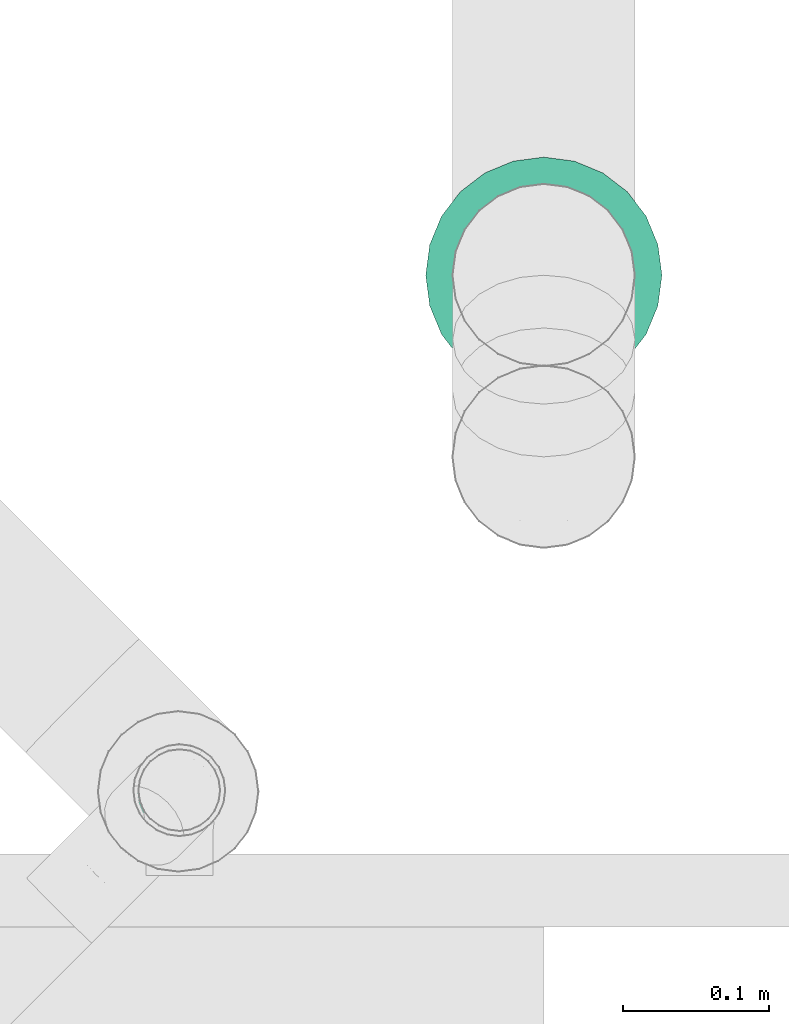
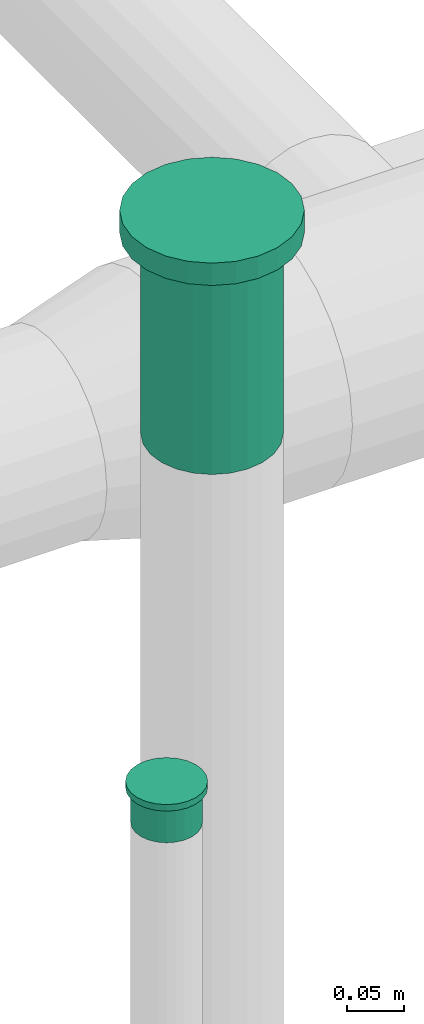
# One storey, part 141 of 374: 2 flow fittings.
"""IFC2X3 building model written with IfcOpenShell, lengths in metres."""

import ifcopenshell
import ifcopenshell.guid

model = None  # the IFC model being written
_history = None  # IfcOwnerHistory: only IFC2X3 demands one
_inside = {}  # id of a spatial element -> (the spatial element, [elements in it])
_under = {}  # id of a project, library or spatial element -> (it, [spatial elements below it])
_declared = {}  # id of a project -> (the project, [libraries it declares])
_typed = {}  # id of a type object -> (the type object, [elements of that type])
_made_of = {}  # id of a material, layer set ... -> (it, [elements and type objects made of it])


def new_model(schema):
    """Start an empty IFC model of exactly this schema.

    Asked for "IFC4X3", IfcOpenShell would pick the latest addendum, in which some entities
    have other attributes; the version numbers below select the first issue.
    IFC2X3 requires an IfcOwnerHistory on every rooted entity: one is made here for all.
    """
    global model, _history
    if schema == "IFC4X3":
        model = ifcopenshell.file(schema_version=(4, 3, 0, 0))
    else:
        model = ifcopenshell.file(schema=schema)
    _inside.clear()
    _under.clear()
    _declared.clear()
    _typed.clear()
    _made_of.clear()
    _history = None
    if model.schema == "IFC2X3":
        org = make("IfcOrganization", Name="unknown")
        user = make(
            "IfcPersonAndOrganization",
            ThePerson=make("IfcPerson", FamilyName="unknown"),
            TheOrganization=org,
        )
        app = make(
            "IfcApplication",
            ApplicationDeveloper=org,
            Version="unknown",
            ApplicationFullName="unknown",
            ApplicationIdentifier="unknown",
        )
        _history = make(
            "IfcOwnerHistory",
            OwningUser=user,
            OwningApplication=app,
            ChangeAction="ADDED",
            CreationDate=0,
        )
    return model


def make(cls, **values):
    """One entity of the class cls with the attributes given. An attribute that is None is left unset."""
    return model.create_entity(
        cls, **{name: value for name, value in values.items() if value is not None}
    )


def rooted(cls, **values):
    """An entity with a GlobalId (a new one), such as an element, a storey or a relation."""
    return make(cls, GlobalId=ifcopenshell.guid.new(), OwnerHistory=_history, **values)


def si_unit(unit_type, name, prefix=None):
    """IfcSIUnit, for example si_unit("LENGTHUNIT", "METRE", prefix="MILLI")."""
    return make("IfcSIUnit", UnitType=unit_type, Prefix=prefix, Name=name)


def assignment(units):
    """IfcUnitAssignment: the units of a project."""
    return None if units is None else make("IfcUnitAssignment", Units=units)


def point(xyz):
    """IfcCartesianPoint."""
    return None if xyz is None else make("IfcCartesianPoint", Coordinates=xyz)


def direction(xyz):
    """IfcDirection."""
    return None if xyz is None else make("IfcDirection", DirectionRatios=xyz)


def frame(location, z_axis=None, x_axis=None):
    """IfcAxis2Placement3D, a coordinate frame: its origin and axes. An axis left out is left unset."""
    return make(
        "IfcAxis2Placement3D",
        Location=point(location),
        Axis=direction(z_axis),
        RefDirection=direction(x_axis),
    )


def origin():
    """The frame at (0, 0, 0) with its axes left unset."""
    return frame((0.0, 0.0, 0.0))


def place(relative_to, where):
    """IfcLocalPlacement: puts the frame where relative to a parent placement (None: the world)."""
    return make(
        "IfcLocalPlacement", PlacementRelTo=relative_to, RelativePlacement=where
    )


def context(
    kind, dimensions, precision=None, world=None, true_north=None, identifier=None
):
    """IfcGeometricRepresentationContext, for example the 3D "Model" context."""
    return make(
        "IfcGeometricRepresentationContext",
        ContextIdentifier=identifier,
        ContextType=kind,
        CoordinateSpaceDimension=dimensions,
        Precision=precision,
        WorldCoordinateSystem=world,
        TrueNorth=true_north,
    )


def subcontext(parent, identifier, kind, view, scale=None):
    """IfcGeometricRepresentationSubContext, for example "Body" below "Model"."""
    return make(
        "IfcGeometricRepresentationSubContext",
        ContextIdentifier=identifier,
        ContextType=kind,
        ParentContext=parent,
        TargetScale=scale,
        TargetView=view,
    )


def project(units=None, contexts=None):
    """IfcProject with its units and contexts."""
    return rooted(
        "IfcProject",
        Name="project",
        RepresentationContexts=contexts,
        UnitsInContext=assignment(units),
    )


def spatial(cls, under=None, at=None, **own):
    """A site, building, storey or space (cls), placed at a placement, below another one or the project."""
    s = rooted(cls, ObjectPlacement=at, **own)
    if under is not None:
        _under.setdefault(under.id(), (under, []))[1].append(s)
    return s


def faces_of(points, faces, orient=None, outer=None):
    """IfcFace entities. A face is a list of loops; a loop is a list of indices into points, from 0.

    orient and outer hold one flag for each loop. By default every Orientation is true, the
    first loop of a face is its IfcFaceOuterBound and the others are IfcFaceBound.
    """
    made = []
    for i, loops in enumerate(faces):
        bounds = []
        for j, loop in enumerate(loops):
            is_outer = j == 0 if outer is None else outer[i][j]
            bounds.append(
                make(
                    "IfcFaceOuterBound" if is_outer else "IfcFaceBound",
                    Bound=make("IfcPolyLoop", Polygon=[points[k] for k in loop]),
                    Orientation=True if orient is None else orient[i][j],
                )
            )
        made.append(make("IfcFace", Bounds=bounds))
    return made


def open_shell(faces, orient=None, outer=None):
    """The faces of one IfcOpenShell. surface_model builds it on its shared points."""
    return ("IfcOpenShell", faces, orient, outer)


def surface_model(cls, points, shells):
    """IfcFaceBasedSurfaceModel or IfcShellBasedSurfaceModel (cls): surfaces that need not close."""
    shared = [point(p) for p in points]
    made = [make(c, CfsFaces=faces_of(shared, fs, o, b)) for c, fs, o, b in shells]
    if cls == "IfcFaceBasedSurfaceModel":
        return make(cls, FbsmFaces=made)
    return make(cls, SbsmBoundary=made)


def shape(context_of_items, identifier, shape_type, items):
    """IfcShapeRepresentation: the items that make up one representation, for example the "Body"."""
    return make(
        "IfcShapeRepresentation",
        ContextOfItems=context_of_items,
        RepresentationIdentifier=identifier,
        RepresentationType=shape_type,
        Items=items,
    )


def source(mapping_origin, context_of_items, identifier, shape_type, items):
    """IfcRepresentationMap: a shape defined once, which mapped items show again and again."""
    return make(
        "IfcRepresentationMap",
        MappingOrigin=mapping_origin,
        MappedRepresentation=shape(context_of_items, identifier, shape_type, items),
    )


def transform(
    local_origin,
    x_axis=None,
    y_axis=None,
    z_axis=None,
    scale=None,
    scale2=None,
    scale3=None,
    uniform=True,
):
    """IfcCartesianTransformationOperator3D, or its non-uniform kind. x_axis, y_axis, z_axis: its Axis1, 2, 3."""
    if uniform:
        return make(
            "IfcCartesianTransformationOperator3D",
            Axis1=direction(x_axis),
            Axis2=direction(y_axis),
            LocalOrigin=point(local_origin),
            Scale=scale,
            Axis3=direction(z_axis),
        )
    return make(
        "IfcCartesianTransformationOperator3DnonUniform",
        Axis1=direction(x_axis),
        Axis2=direction(y_axis),
        LocalOrigin=point(local_origin),
        Scale=scale,
        Axis3=direction(z_axis),
        Scale2=scale2,
        Scale3=scale3,
    )


def mapped(mapping_source, mapping_target):
    """IfcMappedItem: shows the shape of a source again, moved by a transform."""
    return make(
        "IfcMappedItem", MappingSource=mapping_source, MappingTarget=mapping_target
    )


def made_of(thing, what):
    """Note that an element or type object is made of a material, layer set ...; save() writes the relation."""
    if what is not None:
        _made_of.setdefault(what.id(), (what, []))[1].append(thing)
    return thing


def element(
    cls,
    number,
    at=None,
    inside=None,
    cuts=None,
    type_object=None,
    material=None,
    context=None,
    identifier="Body",
    shape_type=None,
    held_by="IfcProductDefinitionShape",
    body=None,
    shapes=None,
    **own,
):
    """One element of the class cls, such as IfcWall. Its Tag is "e" and its number.

    at: its placement. inside: the storey or other place that contains it. cuts: it is an
    opening in that element (IfcRelVoidsElement). A single representation is given by context,
    identifier, shape_type and body (its items); several are given by shapes. held_by: the class
    of the entity that holds the representations. save() writes the other relations.
    """
    e = rooted(cls, Tag="e%d" % number, ObjectPlacement=at, **own)
    if body is not None:
        shapes = [shape(context, identifier, shape_type, body)]
    if shapes is not None:
        e.Representation = make(held_by, Representations=shapes)
    if inside is not None:
        _inside.setdefault(inside.id(), (inside, []))[1].append(e)
    if cuts is not None:
        rooted(
            "IfcRelVoidsElement", RelatingBuildingElement=cuts, RelatedOpeningElement=e
        )
    if type_object is not None:
        _typed.setdefault(type_object.id(), (type_object, []))[1].append(e)
    return made_of(e, material)


def aggregate(whole, parts):
    """IfcRelAggregates: a whole, such as a stair, and the parts it consists of."""
    return rooted("IfcRelAggregates", RelatingObject=whole, RelatedObjects=parts)


def save(model, path):
    """Write the relations noted so far, then the file.

    IfcRelAggregates (storeys below a building ...), IfcRelContainedInSpatialStructure (elements
    in a storey), IfcRelDefinesByType, IfcRelAssociatesMaterial and IfcRelDeclares: one each for
    every whole, place, type object, material and project.
    """
    for whole, parts in _under.values():
        aggregate(whole, parts)
    for where, things in _inside.values():
        rooted(
            "IfcRelContainedInSpatialStructure",
            RelatedElements=things,
            RelatingStructure=where,
        )
    for kind, things in _typed.values():
        rooted("IfcRelDefinesByType", RelatedObjects=things, RelatingType=kind)
    for what, things in _made_of.values():
        rooted("IfcRelAssociatesMaterial", RelatedObjects=things, RelatingMaterial=what)
    for by, libraries in _declared.values():
        rooted("IfcRelDeclares", RelatingContext=by, RelatedDefinitions=libraries)
    model.write(path)


model = new_model("IFC2X3")

# Units and contexts
model_context = context("Model", 3, precision=1e-05, world=origin(), true_north=direction((-0.4480736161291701, 0.8939966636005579)))
body_context = subcontext(model_context, "Body", "Model", "MODEL_VIEW")
ifc_project = project(units=[si_unit("LENGTHUNIT", "METRE"), si_unit("AREAUNIT", "SQUARE_METRE"), si_unit("VOLUMEUNIT", "CUBIC_METRE"), si_unit("PLANEANGLEUNIT", "RADIAN"), si_unit("THERMODYNAMICTEMPERATUREUNIT", "KELVIN"), si_unit("MASSUNIT", "GRAM", prefix="KILO"), si_unit("TIMEUNIT", "SECOND")], contexts=[model_context])

# Site, building, storey
site_placement = place(None, origin())
site = spatial("IfcSite", under=ifc_project, at=site_placement, Name="Site 1", CompositionType="ELEMENT")
building_placement = place(site_placement, origin())
building = spatial("IfcBuilding", under=site, at=building_placement, Name="Undefined", CompositionType="ELEMENT")
storey_placement = place(building_placement, origin())
storey = spatial("IfcBuildingStorey", under=building, at=storey_placement, Name="Rez de chauss\x8ee", CompositionType="ELEMENT", Elevation=0.0)

# Flow fittings
shared_shape_1 = source(origin(), body_context, "Body", "SurfaceModel", [
    surface_model("IfcFaceBasedSurfaceModel", [(0.0, 0.0163157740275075, 0.0), (0.0, 0.0, 0.0), (0.21509999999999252, 8.8817842e-16, 0.0), (0.21509999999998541, 0.01631577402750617, 0.0), (0.0, -0.015759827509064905, -0.004222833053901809), (0.21509999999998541, -0.01575982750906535, -0.004222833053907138), (0.0, -0.029889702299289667, -0.012380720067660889), (0.21509999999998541, -0.02988970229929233, -0.012380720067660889), (0.0, -0.04142669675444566, -0.02391771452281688), (0.21509999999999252, -0.041426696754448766, -0.02391771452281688), (0.0, -0.04958458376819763, -0.038047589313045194), (0.21509999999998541, -0.04958458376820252, -0.03804758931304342), (0.0, -0.053807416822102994, -0.053807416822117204), (0.21509999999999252, -0.05380741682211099, -0.05380741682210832), (0.0, -0.053807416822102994, -0.07012319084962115), (0.21509999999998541, -0.05380741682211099, -0.07012319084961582), (0.0, -0.04958458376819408, -0.08588301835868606), (0.21509999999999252, -0.04958458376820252, -0.08588301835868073), (0.0, -0.04142669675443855, -0.10001289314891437), (0.21509999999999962, -0.0414266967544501, -0.10001289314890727), (0.0, -0.02988970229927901, -0.11154988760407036), (0.21509999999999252, -0.02988970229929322, -0.11154988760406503), (0.0, -0.015759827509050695, -0.11970777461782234), (0.21509999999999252, -0.01575982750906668, -0.11970777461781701), (0.0, 1.4210854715e-14, -0.12393060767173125), (0.21509999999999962, -1.776356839e-15, -0.12393060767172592), (0.0, 0.016315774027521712, -0.12393060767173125), (0.21509999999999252, 0.016315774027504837, -0.12393060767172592), (0.0, 0.03207560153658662, -0.11970777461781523), (0.21509999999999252, 0.032075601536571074, -0.11970777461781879), (0.0, 0.04620547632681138, -0.11154988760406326), (0.21509999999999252, 0.04620547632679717, -0.11154988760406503), (0.0, 0.05774247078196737, -0.10001289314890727), (0.21509999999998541, 0.05774247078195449, -0.10001289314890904), (0.0, 0.06590035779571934, -0.08588301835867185), (0.21509999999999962, 0.06590035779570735, -0.08588301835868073), (0.0, 0.0701231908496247, -0.07012319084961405), (0.21509999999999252, 0.07012319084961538, -0.0701231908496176), (0.0, 0.0701231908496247, -0.05380741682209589), (0.21509999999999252, 0.07012319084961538, -0.0538074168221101), (0.0, 0.06590035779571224, -0.03804758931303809), (0.21509999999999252, 0.0659003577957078, -0.038047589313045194), (0.0, 0.05774247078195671, -0.023917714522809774), (0.21509999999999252, 0.05774247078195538, -0.023917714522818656), (0.0, 0.04620547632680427, -0.012380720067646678), (0.21509999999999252, 0.046205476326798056, -0.012380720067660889), (0.0, 0.03207560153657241, -0.004222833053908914), (0.21509999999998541, 0.032075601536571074, -0.004222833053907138), (0.21509999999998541, 0.018730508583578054, 0.01834172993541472), (0.21509999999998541, -0.0024147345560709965, 0.018341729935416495), (0.23899999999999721, -0.0024147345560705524, 0.01834172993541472), (0.2389999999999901, 0.018730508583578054, 0.01834172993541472), (0.21509999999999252, -0.0228394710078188, 0.01286893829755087), (0.2389999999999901, -0.022839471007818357, 0.01286893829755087), (0.21509999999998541, -0.041151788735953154, 0.0022963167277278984), (0.2389999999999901, -0.04115178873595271, 0.0022963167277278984), (0.21509999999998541, -0.05610373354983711, -0.012655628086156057), (0.2389999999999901, -0.056103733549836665, -0.012655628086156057), (0.21509999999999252, -0.06667635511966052, -0.03096794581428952), (0.23899999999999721, -0.06667635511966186, -0.03096794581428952), (0.21509999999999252, -0.07214914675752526, -0.051392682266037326), (0.23900000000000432, -0.0721491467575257, -0.051392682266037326), (0.21509999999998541, -0.07214914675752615, -0.07253792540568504), (0.23899999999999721, -0.0721491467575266, -0.07253792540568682), (0.21509999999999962, -0.06667635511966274, -0.09296266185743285), (0.23899999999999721, -0.0666763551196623, -0.09296266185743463), (0.21509999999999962, -0.05610373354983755, -0.11127497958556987), (0.23899999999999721, -0.056103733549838, -0.11127497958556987), (0.21509999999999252, -0.041151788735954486, -0.12622692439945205), (0.2389999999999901, -0.041151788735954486, -0.12622692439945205), (0.21509999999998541, -0.02283947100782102, -0.13679954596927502), (0.23899999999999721, -0.022839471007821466, -0.1367995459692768), (0.21509999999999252, -0.002414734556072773, -0.14227233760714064), (0.23900000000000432, -0.002414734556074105, -0.14227233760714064), (0.21509999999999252, 0.01873050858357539, -0.14227233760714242), (0.23899999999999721, 0.01873050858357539, -0.14227233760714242), (0.21509999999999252, 0.03915524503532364, -0.13679954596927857), (0.23899999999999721, 0.03915524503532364, -0.13679954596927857), (0.21509999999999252, 0.0574675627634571, -0.12622692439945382), (0.23899999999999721, 0.05746756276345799, -0.12622692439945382), (0.21509999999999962, 0.07241950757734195, -0.11127497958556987), (0.23899999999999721, 0.07241950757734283, -0.11127497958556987), (0.21509999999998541, 0.0829921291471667, -0.0929626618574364), (0.23899999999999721, 0.08299212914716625, -0.0929626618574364), (0.21509999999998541, 0.08846492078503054, -0.0725379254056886), (0.2389999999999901, 0.08846492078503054, -0.0725379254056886), (0.21509999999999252, 0.08846492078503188, -0.0513926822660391), (0.23899999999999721, 0.08846492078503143, -0.05139268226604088), (0.21509999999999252, 0.08299212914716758, -0.030967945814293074), (0.23899999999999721, 0.08299212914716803, -0.030967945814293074), (0.21509999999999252, 0.07241950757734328, -0.012655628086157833), (0.23900000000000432, 0.07241950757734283, -0.012655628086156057), (0.21509999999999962, 0.05746756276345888, 0.002296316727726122), (0.23900000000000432, 0.05746756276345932, 0.002296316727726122), (0.21509999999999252, 0.0391552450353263, 0.01286893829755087), (0.23899999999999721, 0.03915524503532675, 0.01286893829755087), (0.21509999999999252, 0.008157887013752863, -0.06196530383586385), (0.23899999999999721, 0.008157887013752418, -0.06196530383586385)], [open_shell([[[0, 1, 2, 3]], [[1, 4, 5, 2]], [[4, 6, 7, 5]], [[6, 8, 9, 7]], [[8, 10, 11, 9]], [[10, 12, 13, 11]], [[12, 14, 15, 13]], [[14, 16, 17, 15]], [[16, 18, 19, 17]], [[18, 20, 21, 19]], [[20, 22, 23, 21]], [[22, 24, 25, 23]], [[24, 26, 27, 25]], [[26, 28, 29, 27]], [[28, 30, 31, 29]], [[30, 32, 33, 31]], [[32, 34, 35, 33]], [[34, 36, 37, 35]], [[36, 38, 39, 37]], [[38, 40, 41, 39]], [[40, 42, 43, 41]], [[42, 44, 45, 43]], [[44, 46, 47, 45]], [[46, 0, 3, 47]], [[48, 49, 50, 51]], [[49, 52, 53, 50]], [[52, 54, 55, 53]], [[54, 56, 57, 55]], [[56, 58, 59, 57]], [[58, 60, 61, 59]], [[60, 62, 63, 61]], [[62, 64, 65, 63]], [[64, 66, 67, 65]], [[66, 68, 69, 67]], [[68, 70, 71, 69]], [[70, 72, 73, 71]], [[72, 74, 75, 73]], [[74, 76, 77, 75]], [[76, 78, 79, 77]], [[78, 80, 81, 79]], [[80, 82, 83, 81]], [[82, 84, 85, 83]], [[84, 86, 87, 85]], [[86, 88, 89, 87]], [[88, 90, 91, 89]], [[90, 92, 93, 91]], [[92, 94, 95, 93]], [[94, 48, 51, 95]], [[96, 49, 48]], [[96, 52, 49]], [[96, 54, 52]], [[96, 56, 54]], [[96, 58, 56]], [[96, 60, 58]], [[96, 62, 60]], [[96, 64, 62]], [[96, 66, 64]], [[96, 68, 66]], [[96, 70, 68]], [[96, 72, 70]], [[96, 74, 72]], [[96, 76, 74]], [[96, 78, 76]], [[96, 80, 78]], [[96, 82, 80]], [[96, 84, 82]], [[96, 86, 84]], [[96, 88, 86]], [[96, 90, 88]], [[96, 92, 90]], [[96, 94, 92]], [[96, 48, 94]], [[97, 95, 51]], [[97, 93, 95]], [[97, 91, 93]], [[97, 89, 91]], [[97, 87, 89]], [[97, 85, 87]], [[97, 83, 85]], [[97, 81, 83]], [[97, 79, 81]], [[97, 77, 79]], [[97, 75, 77]], [[97, 73, 75]], [[97, 71, 73]], [[97, 69, 71]], [[97, 67, 69]], [[97, 65, 67]], [[97, 63, 65]], [[97, 61, 63]], [[97, 59, 61]], [[97, 57, 59]], [[97, 55, 57]], [[97, 53, 55]], [[97, 50, 53]], [[97, 51, 50]]])]),
])
flow_fitting_1_placement = place(storey_placement, origin())
element("IfcFlowFitting", 1, at=flow_fitting_1_placement, inside=storey, Name="PE-HD machon long", ObjectType="PE-HD machon long", context=body_context, shape_type="MappedRepresentation", body=[
    mapped(shared_shape_1, transform((58.764522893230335, 13.748823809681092, 5.51139811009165), x_axis=(0.0, 0.0, 1.0), y_axis=(-0.13052619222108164, 0.9914448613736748, 0.0), z_axis=(-0.9914448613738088, -0.13052619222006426, 0.0))),
])
shared_shape_2 = source(origin(), body_context, "Body", "SurfaceModel", [
    surface_model("IfcFaceBasedSurfaceModel", [(0.0, 0.008223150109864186, -7.105427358e-15), (0.0, 0.0, 0.0), (0.04400000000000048, 0.0, 0.0), (0.04400000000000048, 0.008223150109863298, 0.0), (0.0, -0.007942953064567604, -0.002128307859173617), (0.04400000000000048, -0.007942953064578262, -0.0021283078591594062), (-7.105427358e-15, -0.015064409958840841, -0.006239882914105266), (0.04400000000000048, -0.01506440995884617, -0.006239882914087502), (0.0, -0.020879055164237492, -0.012054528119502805), (0.04400000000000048, -0.020879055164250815, -0.012054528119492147), (0.0, -0.024990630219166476, -0.01917598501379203), (0.04400000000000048, -0.02499063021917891, -0.01917598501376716), (-7.105427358e-15, -0.027118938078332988, -0.027118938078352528), (0.04400000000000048, -0.027118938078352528, -0.02711893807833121), (-1.4210854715e-14, -0.02711893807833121, -0.035342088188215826), (0.04400000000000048, -0.027118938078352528, -0.035342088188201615), (-7.105427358e-15, -0.024990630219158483, -0.04328504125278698), (0.04400000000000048, -0.024990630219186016, -0.043285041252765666), (-7.105427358e-15, -0.02087905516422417, -0.050406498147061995), (0.04400000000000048, -0.02087905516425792, -0.05040649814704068), (-7.105427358e-15, -0.015064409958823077, -0.05622114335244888), (0.04400000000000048, -0.01506440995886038, -0.056221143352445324), (-1.4210854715e-14, -0.007942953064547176, -0.06033271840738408), (0.04400000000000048, -0.007942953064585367, -0.06033271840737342), (0.0, 2.2204460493e-14, -0.06246102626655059), (0.04400000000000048, -2.1316282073e-14, -0.06246102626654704), (0.0, 0.00822315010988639, -0.06246102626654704), (0.04400000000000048, 0.008223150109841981, -0.06246102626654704), (-7.105427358e-15, 0.016166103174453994, -0.06033271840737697), (0.04400000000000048, 0.016166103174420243, -0.060332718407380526), (-7.105427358e-15, 0.02328756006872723, -0.056221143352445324), (0.04400000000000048, 0.02328756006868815, -0.056221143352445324), (0.0, 0.029102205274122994, -0.05040649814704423), (0.04400000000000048, 0.029102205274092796, -0.05040649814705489), (-7.105427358e-15, 0.03321378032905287, -0.043285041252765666), (0.04400000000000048, 0.03321378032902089, -0.04328504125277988), (-7.105427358e-15, 0.03534208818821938, -0.03534208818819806), (0.04400000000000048, 0.03534208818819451, -0.03534208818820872), (-7.105427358e-15, 0.0353420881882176, -0.027118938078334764), (0.04400000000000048, 0.035342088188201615, -0.027118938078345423), (-7.105427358e-15, 0.03321378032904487, -0.019175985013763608), (0.04400000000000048, 0.033213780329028, -0.01917598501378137), (-7.105427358e-15, 0.02910220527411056, -0.012054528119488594), (0.04400000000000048, 0.0291022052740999, -0.012054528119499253), (-7.105427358e-15, 0.023287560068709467, -0.00623988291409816), (0.04400000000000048, 0.023287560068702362, -0.006239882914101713), (-7.105427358e-15, 0.016166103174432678, -0.0021283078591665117), (0.04400000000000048, 0.016166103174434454, -0.002128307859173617), (0.044002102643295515, -0.025383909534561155, -0.035113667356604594), (0.044002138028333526, -0.025383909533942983, -0.02734735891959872), (0.044004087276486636, -0.023648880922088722, -0.03488524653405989), (0.044004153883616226, -0.02364888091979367, -0.027575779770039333), (0.044001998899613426, -0.023373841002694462, -0.04261534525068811), (0.04400389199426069, -0.02175705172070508, -0.041945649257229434), (0.044001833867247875, -0.019490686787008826, -0.04934116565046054), (0.04400358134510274, -0.018102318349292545, -0.04827583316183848), (0.04400161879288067, -0.013999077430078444, -0.054832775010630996), (0.044003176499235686, -0.01293374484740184, -0.05344440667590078), (0.04400136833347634, -0.007273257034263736, -0.058715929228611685), (0.04400270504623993, -0.006603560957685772, -0.05709914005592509), (0.0440010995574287, 0.00022842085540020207, -0.06072599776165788), (0.04400219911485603, 0.00045684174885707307, -0.05899096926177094), (0.04400083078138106, 0.007994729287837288, -0.06072599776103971), (0.044001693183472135, 0.007766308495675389, -0.05899096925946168), (0.044000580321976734, 0.015496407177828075, -0.05871592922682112), (0.04400122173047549, 0.014826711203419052, -0.057099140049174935), (0.04400036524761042, 0.02222222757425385, -0.05483277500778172), (0.04400081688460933, 0.021156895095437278, -0.05344440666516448), (0.04400020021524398, 0.027713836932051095, -0.04934116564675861), (0.044000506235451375, 0.026325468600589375, -0.048275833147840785), (0.04400009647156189, 0.031596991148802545, -0.0426153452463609), (0.04400031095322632, 0.029980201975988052, -0.04194564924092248), (0.04400006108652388, 0.033607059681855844, -0.035113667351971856), (0.04400024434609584, 0.031872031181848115, -0.034885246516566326), (0.04400009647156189, 0.03360705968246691, -0.02734735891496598), (0.04400031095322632, 0.031872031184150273, -0.027575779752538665), (0.04400020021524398, 0.03159699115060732, -0.019845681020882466), (0.044000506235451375, 0.02998020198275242, -0.02051537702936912), (0.04400036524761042, 0.027713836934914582, -0.013119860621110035), (0.04400081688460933, 0.02632546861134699, -0.014185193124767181), (0.044000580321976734, 0.0222222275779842, -0.0076282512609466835), (0.04400122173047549, 0.02115689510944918, -0.009016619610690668), (0.04400083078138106, 0.015496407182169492, -0.0037450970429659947), (0.044001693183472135, 0.014826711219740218, -0.005361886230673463), (0.0440010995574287, 0.007994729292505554, -0.001735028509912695), (0.04400219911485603, 0.007766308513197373, -0.0034700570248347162), (0.04400136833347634, 0.00022842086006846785, -0.0017350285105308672), (0.04400270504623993, 0.00045684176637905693, -0.0034700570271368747), (0.04400161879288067, -0.00727325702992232, -0.003745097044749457), (0.044003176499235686, -0.006603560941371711, -0.005361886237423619), (0.044001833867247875, -0.013999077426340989, -0.00762825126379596), (0.04400358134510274, -0.012933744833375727, -0.009016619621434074), (0.044001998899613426, -0.019490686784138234, -0.013119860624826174), (0.04400389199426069, -0.01810231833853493, -0.014185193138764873), (0.044002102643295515, -0.023373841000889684, -0.019845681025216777), (0.044004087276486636, -0.021757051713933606, -0.02051537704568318), (0.03700471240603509, -0.03158092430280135, -0.026531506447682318), (0.03700462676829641, -0.03158092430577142, -0.03592939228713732), (0.04400462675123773, -0.031580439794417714, -0.03592945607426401), (0.04400471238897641, -0.031580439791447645, -0.026531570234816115), (0.03700437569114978, -0.029148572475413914, -0.04500705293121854), (0.0440043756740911, -0.029148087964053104, -0.04500711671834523), (0.03700397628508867, -0.024449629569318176, -0.05314586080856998), (0.04400397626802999, -0.024449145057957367, -0.05314592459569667), (0.0370034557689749, -0.017804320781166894, -0.059791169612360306), (0.04400345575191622, -0.017803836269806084, -0.059791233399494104), (0.03700284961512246, -0.00966551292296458, -0.0644901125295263), (0.044002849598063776, -0.009665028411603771, -0.06449017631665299), (0.037002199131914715, -0.0005878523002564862, -0.06692246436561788), (0.04400219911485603, -0.0005873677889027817, -0.06692252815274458), (0.03700154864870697, 0.008810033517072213, -0.06692246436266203), (0.0440015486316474, 0.008810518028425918, -0.06692252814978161), (0.03700094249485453, 0.017887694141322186, -0.06449011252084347), (0.04400094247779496, 0.01788817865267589, -0.06449017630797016), (0.03700042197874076, 0.02602650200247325, -0.05979116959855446), (0.04400042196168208, 0.02602698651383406, -0.05979123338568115), (0.03700002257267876, 0.03267181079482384, -0.053145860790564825), (0.04400002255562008, 0.03267229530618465, -0.05314592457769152), (0.03699977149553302, 0.0373707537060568, -0.04500705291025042), (0.04399977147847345, 0.03737123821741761, -0.04500711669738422), (0.03699968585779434, 0.03980310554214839, -0.035929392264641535), (0.04399968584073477, 0.03980359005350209, -0.03592945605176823), (0.03699977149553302, 0.039803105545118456, -0.02653150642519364), (0.04399977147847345, 0.039803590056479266, -0.026531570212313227), (0.03700002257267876, 0.037370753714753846, -0.017453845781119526), (0.04400002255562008, 0.037371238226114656, -0.017453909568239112), (0.03700042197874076, 0.03267181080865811, -0.009315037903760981), (0.04400042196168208, 0.03267229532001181, -0.009315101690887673), (0.03700094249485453, 0.026026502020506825, -0.0026697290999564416), (0.04400094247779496, 0.02602698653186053, -0.0026697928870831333), (0.03700154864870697, 0.017887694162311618, 0.0020292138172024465), (0.0440015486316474, 0.017888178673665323, 0.00202915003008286), (0.037002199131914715, 0.008810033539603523, 0.004461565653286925), (0.04400219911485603, 0.008810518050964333, 0.0044615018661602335), (0.03700284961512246, -0.000587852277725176, 0.0044615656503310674), (0.044002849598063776, -0.0005873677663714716, 0.004461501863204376), (0.0370034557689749, -0.009665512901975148, 0.0020292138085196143), (0.04400345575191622, -0.009665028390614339, 0.002029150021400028), (0.03700397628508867, -0.01780432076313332, -0.002669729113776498), (0.04400397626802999, -0.01780383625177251, -0.0026697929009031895), (0.03700437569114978, -0.02444962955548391, -0.009315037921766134), (0.0440043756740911, -0.024449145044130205, -0.00931510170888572), (0.03700462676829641, -0.029148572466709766, -0.017453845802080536), (0.04400462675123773, -0.02914808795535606, -0.017453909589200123), (0.037002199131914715, 0.004111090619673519, -0.031230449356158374), (0.04400219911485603, 0.004111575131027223, -0.03123051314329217)], [open_shell([[[0, 1, 2, 3]], [[1, 4, 5, 2]], [[4, 6, 7, 5]], [[6, 8, 9, 7]], [[8, 10, 11, 9]], [[10, 12, 13, 11]], [[12, 14, 15, 13]], [[14, 16, 17, 15]], [[16, 18, 19, 17]], [[18, 20, 21, 19]], [[20, 22, 23, 21]], [[22, 24, 25, 23]], [[24, 26, 27, 25]], [[26, 28, 29, 27]], [[28, 30, 31, 29]], [[30, 32, 33, 31]], [[32, 34, 35, 33]], [[34, 36, 37, 35]], [[36, 38, 39, 37]], [[38, 40, 41, 39]], [[40, 42, 43, 41]], [[42, 44, 45, 43]], [[44, 46, 47, 45]], [[46, 0, 3, 47]], [[13, 15, 48]], [[48, 49, 13]], [[49, 48, 50]], [[50, 51, 49]], [[15, 17, 52]], [[52, 48, 15]], [[48, 52, 53]], [[53, 50, 48]], [[17, 19, 54]], [[54, 52, 17]], [[52, 54, 55]], [[55, 53, 52]], [[19, 21, 56]], [[56, 54, 19]], [[54, 56, 57]], [[57, 55, 54]], [[21, 23, 58]], [[58, 56, 21]], [[56, 58, 59]], [[59, 57, 56]], [[23, 25, 60]], [[60, 58, 23]], [[58, 60, 61]], [[61, 59, 58]], [[25, 27, 62]], [[62, 60, 25]], [[60, 62, 63]], [[63, 61, 60]], [[27, 29, 64]], [[64, 62, 27]], [[62, 64, 65]], [[65, 63, 62]], [[29, 31, 66]], [[66, 64, 29]], [[64, 66, 67]], [[67, 65, 64]], [[31, 33, 68]], [[68, 66, 31]], [[66, 68, 69]], [[69, 67, 66]], [[33, 35, 70]], [[70, 68, 33]], [[68, 70, 71]], [[71, 69, 68]], [[35, 37, 72]], [[72, 70, 35]], [[70, 72, 73]], [[73, 71, 70]], [[37, 39, 74]], [[74, 72, 37]], [[72, 74, 75]], [[75, 73, 72]], [[39, 41, 76]], [[76, 74, 39]], [[74, 76, 77]], [[77, 75, 74]], [[41, 43, 78]], [[78, 76, 41]], [[76, 78, 79]], [[79, 77, 76]], [[43, 45, 80]], [[80, 78, 43]], [[78, 80, 81]], [[81, 79, 78]], [[45, 47, 82]], [[82, 80, 45]], [[80, 82, 83]], [[83, 81, 80]], [[47, 3, 84]], [[84, 82, 47]], [[82, 84, 85]], [[85, 83, 82]], [[3, 2, 86]], [[86, 84, 3]], [[84, 86, 87]], [[87, 85, 84]], [[2, 5, 88]], [[88, 86, 2]], [[86, 88, 89]], [[89, 87, 86]], [[5, 7, 90]], [[90, 88, 5]], [[88, 90, 91]], [[91, 89, 88]], [[7, 9, 92]], [[92, 90, 7]], [[90, 92, 93]], [[93, 91, 90]], [[9, 11, 94]], [[94, 92, 9]], [[92, 94, 95]], [[95, 93, 92]], [[11, 13, 49]], [[49, 94, 11]], [[94, 49, 51]], [[51, 95, 94]], [[96, 97, 98, 99]], [[97, 100, 101, 98]], [[100, 102, 103, 101]], [[102, 104, 105, 103]], [[104, 106, 107, 105]], [[106, 108, 109, 107]], [[108, 110, 111, 109]], [[110, 112, 113, 111]], [[112, 114, 115, 113]], [[114, 116, 117, 115]], [[116, 118, 119, 117]], [[118, 120, 121, 119]], [[120, 122, 123, 121]], [[122, 124, 125, 123]], [[124, 126, 127, 125]], [[126, 128, 129, 127]], [[128, 130, 131, 129]], [[130, 132, 133, 131]], [[132, 134, 135, 133]], [[134, 136, 137, 135]], [[136, 138, 139, 137]], [[138, 140, 141, 139]], [[140, 142, 143, 141]], [[142, 96, 99, 143]], [[144, 97, 96]], [[144, 100, 97]], [[144, 102, 100]], [[144, 104, 102]], [[144, 106, 104]], [[144, 108, 106]], [[144, 110, 108]], [[144, 112, 110]], [[144, 114, 112]], [[144, 116, 114]], [[144, 118, 116]], [[144, 120, 118]], [[144, 122, 120]], [[144, 124, 122]], [[144, 126, 124]], [[144, 128, 126]], [[144, 130, 128]], [[144, 132, 130]], [[144, 134, 132]], [[144, 136, 134]], [[144, 138, 136]], [[144, 140, 138]], [[144, 142, 140]], [[144, 96, 142]], [[145, 143, 99]], [[145, 141, 143]], [[145, 139, 141]], [[145, 137, 139]], [[145, 135, 137]], [[145, 133, 135]], [[145, 131, 133]], [[145, 129, 131]], [[145, 127, 129]], [[145, 125, 127]], [[145, 123, 125]], [[145, 121, 123]], [[145, 119, 121]], [[145, 117, 119]], [[145, 115, 117]], [[145, 113, 115]], [[145, 111, 113]], [[145, 109, 111]], [[145, 107, 109]], [[145, 105, 107]], [[145, 103, 105]], [[145, 101, 103]], [[145, 98, 101]], [[145, 99, 98]]])]),
])
flow_fitting_2_placement = place(storey_placement, origin())
element("IfcFlowFitting", 2, at=flow_fitting_2_placement, inside=storey, Name="PE-HD manchon à emboiter réduit", ObjectType="PE-HD manchon à emboiter réduit", context=body_context, shape_type="MappedRepresentation", body=[
    mapped(shared_shape_2, transform((58.60228698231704, 13.395961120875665, 5.397556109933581), x_axis=(0.0, 0.0, 1.0), y_axis=(-0.6087614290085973, -0.79335334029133, 0.0), z_axis=(0.79335334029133, -0.6087614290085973, 0.0))),
])

save(model, "model.ifc")
